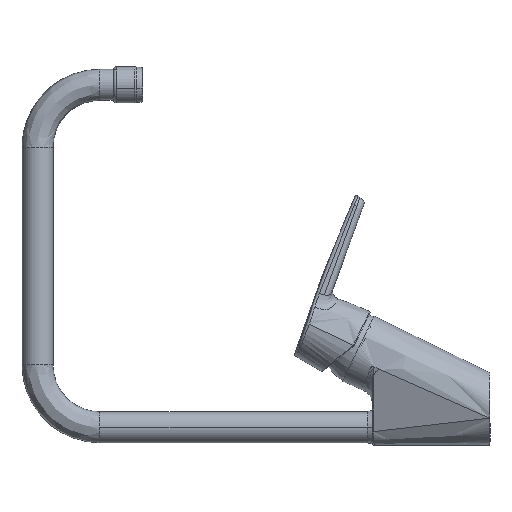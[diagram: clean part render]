
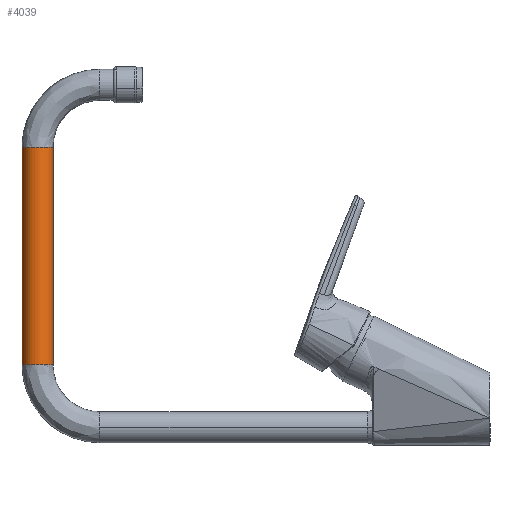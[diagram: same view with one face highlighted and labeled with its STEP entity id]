
A CAD part, left-side view. The second image highlights one B-rep face of the part: STEP entity #4039.
In plain terms, the highlighted cylindrical face has radius 10 mm (diameter 20 mm), a partial arc.
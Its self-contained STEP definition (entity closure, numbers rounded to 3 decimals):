
#376 = AXIS2_PLACEMENT_3D ( 'NONE', #16857, #16716, #19925 ) ;
#556 = CYLINDRICAL_SURFACE ( 'NONE', #14521, 10. ) ;
#951 = EDGE_LOOP ( 'NONE', ( #7316, #20701, #10241, #5039 ) ) ;
#1498 = CARTESIAN_POINT ( 'NONE',  ( 0., 300.7, 168.2 ) ) ;
#1877 = DIRECTION ( 'NONE',  ( 0., 0., -1. ) ) ;
#3430 = CARTESIAN_POINT ( 'NONE',  ( 0., 300.7, 168.2 ) ) ;
#4039 = ADVANCED_FACE ( 'NONE', ( #12909 ), #556, .T. ) ;
#4248 = LINE ( 'NONE', #3430, #16101 ) ;
#4335 = CIRCLE ( 'NONE', #376, 10. ) ;
#4455 = EDGE_CURVE ( 'NONE', #18583, #7543, #4335, .T. ) ;
#5039 = ORIENTED_EDGE ( 'NONE', *, *, #13967, .F. ) ;
#6299 = VERTEX_POINT ( 'NONE', #10694 ) ;
#7125 = EDGE_CURVE ( 'NONE', #7543, #6299, #4248, .T. ) ;
#7194 = DIRECTION ( 'NONE',  ( 0., 0., -1. ) ) ;
#7316 = ORIENTED_EDGE ( 'NONE', *, *, #19840, .F. ) ;
#7543 = VERTEX_POINT ( 'NONE', #1498 ) ;
#7767 = CIRCLE ( 'NONE', #9239, 10. ) ;
#8936 = VERTEX_POINT ( 'NONE', #16287 ) ;
#9239 = AXIS2_PLACEMENT_3D ( 'NONE', #14235, #12493, #15876 ) ;
#10241 = ORIENTED_EDGE ( 'NONE', *, *, #7125, .T. ) ;
#10694 = CARTESIAN_POINT ( 'NONE',  ( 0., 300.7, 28.2 ) ) ;
#12493 = DIRECTION ( 'NONE',  ( 0., 0., -1. ) ) ;
#12909 = FACE_OUTER_BOUND ( 'NONE', #951, .T. ) ;
#13967 = EDGE_CURVE ( 'NONE', #8936, #6299, #7767, .T. ) ;
#14235 = CARTESIAN_POINT ( 'NONE',  ( 0., 290.7, 28.2 ) ) ;
#14521 = AXIS2_PLACEMENT_3D ( 'NONE', #19900, #16631, #19969 ) ;
#15876 = DIRECTION ( 'NONE',  ( 0., 1., 0. ) ) ;
#16066 = LINE ( 'NONE', #17128, #18364 ) ;
#16101 = VECTOR ( 'NONE', #1877, 1000. ) ;
#16287 = CARTESIAN_POINT ( 'NONE',  ( 0., 280.7, 28.2 ) ) ;
#16631 = DIRECTION ( 'NONE',  ( 0., 0., -1. ) ) ;
#16716 = DIRECTION ( 'NONE',  ( 0., 0., -1. ) ) ;
#16857 = CARTESIAN_POINT ( 'NONE',  ( 0., 290.7, 168.2 ) ) ;
#17128 = CARTESIAN_POINT ( 'NONE',  ( 0., 280.7, 168.2 ) ) ;
#18273 = CARTESIAN_POINT ( 'NONE',  ( 0., 280.7, 168.2 ) ) ;
#18364 = VECTOR ( 'NONE', #7194, 1000. ) ;
#18583 = VERTEX_POINT ( 'NONE', #18273 ) ;
#19840 = EDGE_CURVE ( 'NONE', #18583, #8936, #16066, .T. ) ;
#19900 = CARTESIAN_POINT ( 'NONE',  ( 0., 290.7, 168.2 ) ) ;
#19925 = DIRECTION ( 'NONE',  ( 0., 1., 0. ) ) ;
#19969 = DIRECTION ( 'NONE',  ( 0., 1., 0. ) ) ;
#20701 = ORIENTED_EDGE ( 'NONE', *, *, #4455, .T. ) ;
